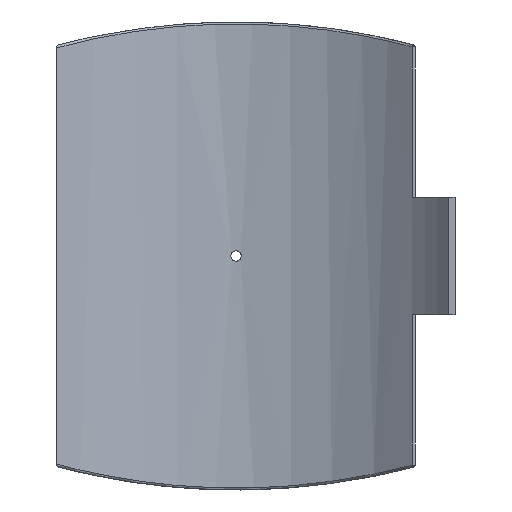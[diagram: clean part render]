
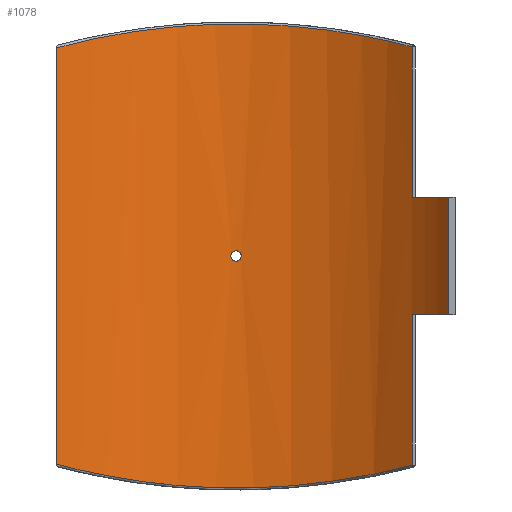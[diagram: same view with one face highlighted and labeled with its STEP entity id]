
A CAD part, front view. The second image highlights one B-rep face of the part: STEP entity #1078.
In plain terms, the highlighted cylindrical face has radius 280 mm (diameter 560 mm), a partial arc.
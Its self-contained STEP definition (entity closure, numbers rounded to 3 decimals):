
#55=FACE_BOUND('',#355,.T.);
#109=B_SPLINE_CURVE_WITH_KNOTS('',3,(#2245,#2246,#2247,#2248,#2249,#2250,
#2251,#2252,#2253,#2254),.UNSPECIFIED.,.F.,.F.,(4,1,1,1,1,1,1,4),(-44.848,
-39.233,-33.618,-28.002,-22.387,
-16.772,-11.157,-5.542),.UNSPECIFIED.);
#110=B_SPLINE_CURVE_WITH_KNOTS('',3,(#2263,#2264,#2265,#2266,#2267,#2268,
#2269,#2270,#2271,#2272),.UNSPECIFIED.,.F.,.F.,(4,1,1,1,1,1,1,4),(-40.312,
-34.697,-29.082,-23.466,-17.851,
-12.236,-6.621,-1.006),.UNSPECIFIED.);
#111=B_SPLINE_CURVE_WITH_KNOTS('',3,(#2275,#2276,#2277,#2278,#2279,#2280,
#2281,#2282,#2283,#2284),.UNSPECIFIED.,.F.,.F.,(4,2,2,2,4),(0.,0.196,
0.392,0.588,0.784),.UNSPECIFIED.);
#112=B_SPLINE_CURVE_WITH_KNOTS('',3,(#2285,#2286,#2287,#2288,#2289,#2290,
#2291,#2292,#2293,#2294,#2295,#2296,#2297,#2298,#2299,#2300,#2301,#2302,
#2303,#2304,#2305,#2306,#2307,#2308,#2309,#2310),.UNSPECIFIED.,.F.,.F.,
(4,2,2,2,2,2,2,2,2,2,2,2,4),(0.784,0.979,1.175,
1.371,1.567,1.763,1.959,2.155,
2.351,2.546,2.742,2.938,3.134),
 .UNSPECIFIED.);
#133=LINE('',#1615,#184);
#144=LINE('',#1899,#195);
#151=LINE('',#2259,#202);
#152=LINE('',#2262,#203);
#184=VECTOR('',#1292,10.);
#195=VECTOR('',#1331,10.);
#202=VECTOR('',#1368,10.);
#203=VECTOR('',#1371,10.);
#244=CYLINDRICAL_SURFACE('',#1175,280.);
#288=FACE_OUTER_BOUND('',#354,.T.);
#354=EDGE_LOOP('',(#839,#840,#841,#842,#843,#844,#845,#846));
#355=EDGE_LOOP('',(#847,#848));
#449=CIRCLE('',#1176,280.);
#450=CIRCLE('',#1177,280.);
#510=VERTEX_POINT('',#1606);
#513=VERTEX_POINT('',#1613);
#533=VERTEX_POINT('',#1892);
#536=VERTEX_POINT('',#1897);
#549=VERTEX_POINT('',#2228);
#550=VERTEX_POINT('',#2256);
#551=VERTEX_POINT('',#2258);
#552=VERTEX_POINT('',#2261);
#553=VERTEX_POINT('',#2273);
#554=VERTEX_POINT('',#2274);
#613=EDGE_CURVE('',#513,#510,#133,.T.);
#643=EDGE_CURVE('',#536,#533,#144,.T.);
#666=EDGE_CURVE('',#549,#536,#109,.T.);
#667=EDGE_CURVE('',#550,#513,#449,.T.);
#668=EDGE_CURVE('',#550,#551,#151,.T.);
#669=EDGE_CURVE('',#533,#551,#450,.T.);
#670=EDGE_CURVE('',#552,#549,#152,.T.);
#671=EDGE_CURVE('',#510,#552,#110,.T.);
#672=EDGE_CURVE('',#553,#554,#111,.T.);
#673=EDGE_CURVE('',#554,#553,#112,.T.);
#839=ORIENTED_EDGE('',*,*,#667,.F.);
#840=ORIENTED_EDGE('',*,*,#668,.T.);
#841=ORIENTED_EDGE('',*,*,#669,.F.);
#842=ORIENTED_EDGE('',*,*,#643,.F.);
#843=ORIENTED_EDGE('',*,*,#666,.F.);
#844=ORIENTED_EDGE('',*,*,#670,.F.);
#845=ORIENTED_EDGE('',*,*,#671,.F.);
#846=ORIENTED_EDGE('',*,*,#613,.F.);
#847=ORIENTED_EDGE('',*,*,#672,.T.);
#848=ORIENTED_EDGE('',*,*,#673,.T.);
#1078=ADVANCED_FACE('',(#288,#55),#244,.F.);
#1175=AXIS2_PLACEMENT_3D('',#2255,#1364,#1365);
#1176=AXIS2_PLACEMENT_3D('',#2257,#1366,#1367);
#1177=AXIS2_PLACEMENT_3D('',#2260,#1369,#1370);
#1292=DIRECTION('',(0.,0.,-1.));
#1331=DIRECTION('',(0.,0.,-1.));
#1364=DIRECTION('center_axis',(0.,0.,1.));
#1365=DIRECTION('ref_axis',(-1.,0.,0.));
#1366=DIRECTION('center_axis',(0.,0.,1.));
#1367=DIRECTION('ref_axis',(-0.761,-0.648,0.));
#1368=DIRECTION('',(0.,0.,1.));
#1369=DIRECTION('center_axis',(0.,0.,-1.));
#1370=DIRECTION('ref_axis',(-0.761,-0.648,0.));
#1371=DIRECTION('',(0.,0.,1.));
#1606=CARTESIAN_POINT('',(176.738,217.172,-209.96));
#1613=CARTESIAN_POINT('',(176.738,217.172,-58.75));
#1615=CARTESIAN_POINT('',(176.738,217.172,0.));
#1892=CARTESIAN_POINT('',(176.738,217.172,58.75));
#1897=CARTESIAN_POINT('',(176.738,217.172,209.96));
#1899=CARTESIAN_POINT('',(176.738,217.172,0.));
#2228=CARTESIAN_POINT('',(-180.,214.476,209.087));
#2245=CARTESIAN_POINT('Ctrl Pts',(-180.,214.476,209.087));
#2246=CARTESIAN_POINT('Ctrl Pts',(-166.058,226.177,212.857));
#2247=CARTESIAN_POINT('Ctrl Pts',(-135.83,246.905,220.085));
#2248=CARTESIAN_POINT('Ctrl Pts',(-84.892,268.744,228.451));
#2249=CARTESIAN_POINT('Ctrl Pts',(-30.203,280.236,233.094));
#2250=CARTESIAN_POINT('Ctrl Pts',(25.873,280.668,233.271));
#2251=CARTESIAN_POINT('Ctrl Pts',(80.762,270.018,228.958));
#2252=CARTESIAN_POINT('Ctrl Pts',(132.061,248.943,220.84));
#2253=CARTESIAN_POINT('Ctrl Pts',(162.616,228.665,213.705));
#2254=CARTESIAN_POINT('Ctrl Pts',(176.738,217.172,209.96));
#2255=CARTESIAN_POINT('Origin',(0.,0.,0.));
#2256=CARTESIAN_POINT('',(213.181,181.532,-58.75));
#2257=CARTESIAN_POINT('Origin',(0.,0.,
-58.75));
#2258=CARTESIAN_POINT('',(213.181,181.532,58.75));
#2259=CARTESIAN_POINT('',(213.181,181.532,0.));
#2260=CARTESIAN_POINT('Origin',(0.,0.,
58.75));
#2261=CARTESIAN_POINT('',(-180.,214.476,-209.087));
#2262=CARTESIAN_POINT('',(-180.,214.476,0.));
#2263=CARTESIAN_POINT('Ctrl Pts',(176.738,217.172,-209.96));
#2264=CARTESIAN_POINT('Ctrl Pts',(162.616,228.665,-213.705));
#2265=CARTESIAN_POINT('Ctrl Pts',(132.061,248.944,-220.84));
#2266=CARTESIAN_POINT('Ctrl Pts',(80.761,270.017,-228.957));
#2267=CARTESIAN_POINT('Ctrl Pts',(25.874,280.67,-233.272));
#2268=CARTESIAN_POINT('Ctrl Pts',(-30.202,280.234,-233.092));
#2269=CARTESIAN_POINT('Ctrl Pts',(-84.893,268.745,-228.452));
#2270=CARTESIAN_POINT('Ctrl Pts',(-135.83,246.904,-220.085));
#2271=CARTESIAN_POINT('Ctrl Pts',(-166.058,226.177,-212.857));
#2272=CARTESIAN_POINT('Ctrl Pts',(-180.,214.476,-209.087));
#2273=CARTESIAN_POINT('',(5.2,279.952,0.));
#2274=CARTESIAN_POINT('',(0.,280.,-5.2));
#2275=CARTESIAN_POINT('Ctrl Pts',(5.2,279.952,0.));
#2276=CARTESIAN_POINT('Ctrl Pts',(5.2,279.952,-0.653));
#2277=CARTESIAN_POINT('Ctrl Pts',(5.07,279.954,-1.349));
#2278=CARTESIAN_POINT('Ctrl Pts',(4.539,279.963,-2.631));
#2279=CARTESIAN_POINT('Ctrl Pts',(4.139,279.97,-3.215));
#2280=CARTESIAN_POINT('Ctrl Pts',(3.215,279.982,-4.139));
#2281=CARTESIAN_POINT('Ctrl Pts',(2.631,279.988,-4.539));
#2282=CARTESIAN_POINT('Ctrl Pts',(1.349,279.997,-5.07));
#2283=CARTESIAN_POINT('Ctrl Pts',(0.653,280.,-5.2));
#2284=CARTESIAN_POINT('Ctrl Pts',(0.,280.,-5.2));
#2285=CARTESIAN_POINT('Ctrl Pts',(0.,280.,-5.2));
#2286=CARTESIAN_POINT('Ctrl Pts',(-0.653,280.,-5.2));
#2287=CARTESIAN_POINT('Ctrl Pts',(-1.349,279.997,-5.07));
#2288=CARTESIAN_POINT('Ctrl Pts',(-2.631,279.988,-4.539));
#2289=CARTESIAN_POINT('Ctrl Pts',(-3.215,279.982,-4.139));
#2290=CARTESIAN_POINT('Ctrl Pts',(-4.139,279.97,-3.215));
#2291=CARTESIAN_POINT('Ctrl Pts',(-4.539,279.963,-2.631));
#2292=CARTESIAN_POINT('Ctrl Pts',(-5.07,279.954,-1.349));
#2293=CARTESIAN_POINT('Ctrl Pts',(-5.2,279.952,-0.653));
#2294=CARTESIAN_POINT('Ctrl Pts',(-5.2,279.952,0.653));
#2295=CARTESIAN_POINT('Ctrl Pts',(-5.07,279.954,1.349));
#2296=CARTESIAN_POINT('Ctrl Pts',(-4.539,279.963,2.631));
#2297=CARTESIAN_POINT('Ctrl Pts',(-4.139,279.97,3.215));
#2298=CARTESIAN_POINT('Ctrl Pts',(-3.215,279.982,4.139));
#2299=CARTESIAN_POINT('Ctrl Pts',(-2.631,279.988,4.539));
#2300=CARTESIAN_POINT('Ctrl Pts',(-1.349,279.997,5.07));
#2301=CARTESIAN_POINT('Ctrl Pts',(-0.653,280.,5.2));
#2302=CARTESIAN_POINT('Ctrl Pts',(0.653,280.,5.2));
#2303=CARTESIAN_POINT('Ctrl Pts',(1.349,279.997,5.07));
#2304=CARTESIAN_POINT('Ctrl Pts',(2.631,279.988,4.539));
#2305=CARTESIAN_POINT('Ctrl Pts',(3.215,279.982,4.139));
#2306=CARTESIAN_POINT('Ctrl Pts',(4.139,279.97,3.215));
#2307=CARTESIAN_POINT('Ctrl Pts',(4.539,279.963,2.631));
#2308=CARTESIAN_POINT('Ctrl Pts',(5.07,279.954,1.349));
#2309=CARTESIAN_POINT('Ctrl Pts',(5.2,279.952,0.653));
#2310=CARTESIAN_POINT('Ctrl Pts',(5.2,279.952,0.));
